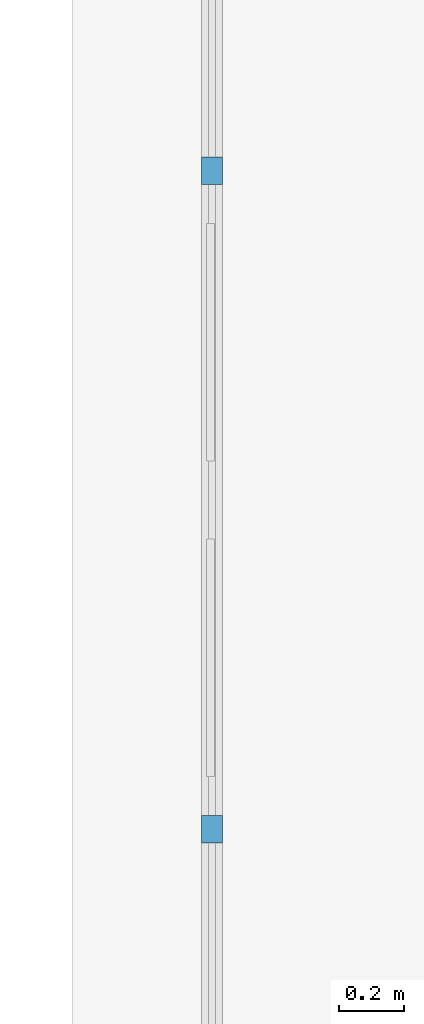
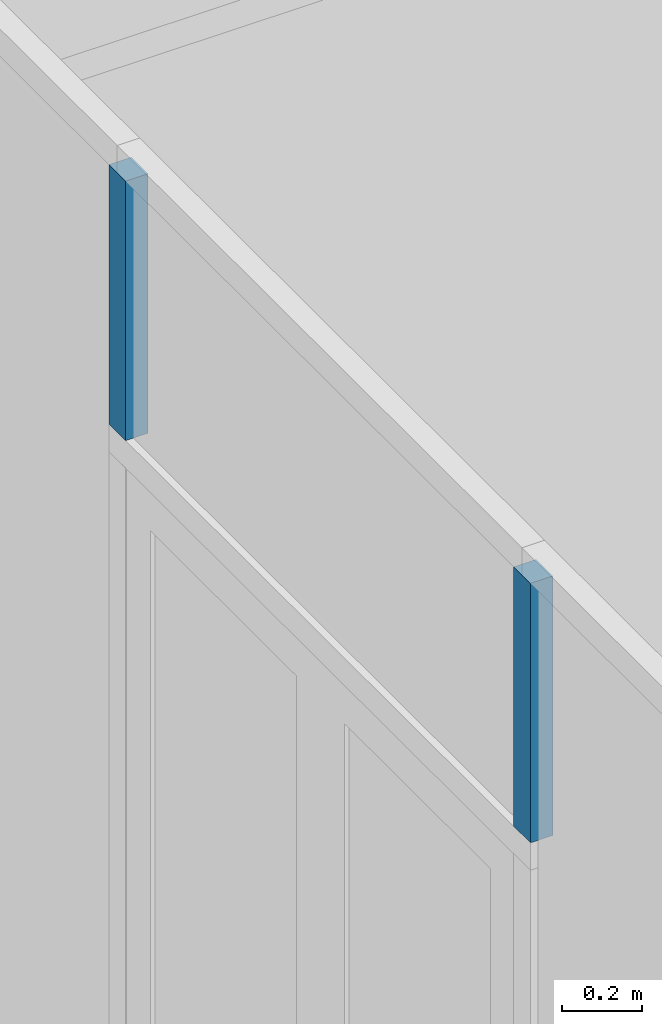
# One storey, part 6 of 99: 2 members, 1 element without a shape of its own.
"""IFC2X3 building model written with IfcOpenShell, lengths in millimetres."""

from ifc_helpers import new_model, entity, si_unit, converted_unit, derived_unit, money_unit, direction, frame, origin_with_axes, place, context, subcontext, project, spatial, faceted_brep, source, transform, mapped, material, type_object, type_shapes, element, aggregate, save


model = new_model("IFC2X3")

# Units and contexts
model_context = context("Model", 3, precision=0.01, world=origin_with_axes(), true_north=direction((0.0, 1.0)))
body_context = subcontext(model_context, "Body", "Model", "MODEL_VIEW")
ifc_project = project(units=[si_unit("LENGTHUNIT", "METRE", prefix="MILLI"), si_unit("AREAUNIT", "SQUARE_METRE"), si_unit("VOLUMEUNIT", "CUBIC_METRE"), converted_unit("PLANEANGLEUNIT", "DEGREE", entity("IfcPlaneAngleMeasure", 0.0174532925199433), si_unit("PLANEANGLEUNIT", "RADIAN"), dimensions=[0, 0, 0, 0, 0, 0, 0]), money_unit("EUR"), converted_unit("TIMEUNIT", "Year", entity("IfcTimeMeasure", 31557600.0), si_unit("TIMEUNIT", "SECOND"), dimensions=[0, 0, 1, 0, 0, 0, 0]), si_unit("MASSUNIT", "GRAM", prefix="KILO"), si_unit("THERMODYNAMICTEMPERATUREUNIT", "DEGREE_CELSIUS"), si_unit("LUMINOUSINTENSITYUNIT", "LUMEN"), si_unit("ENERGYUNIT", "JOULE", prefix="MEGA"), derived_unit("THERMALCONDUCTANCEUNIT", [(si_unit("POWERUNIT", "WATT"), 1), (si_unit("LENGTHUNIT", "METRE"), -1), (si_unit("THERMODYNAMICTEMPERATUREUNIT", "KELVIN"), -1)]), derived_unit("SPECIFICHEATCAPACITYUNIT", [(si_unit("ENERGYUNIT", "JOULE"), 1), (si_unit("MASSUNIT", "GRAM", prefix="KILO"), -1), (si_unit("THERMODYNAMICTEMPERATUREUNIT", "KELVIN"), -1)]), derived_unit("MASSDENSITYUNIT", [(si_unit("MASSUNIT", "GRAM", prefix="KILO"), 1), (si_unit("VOLUMEUNIT", "CUBIC_METRE"), -1)])], contexts=[model_context])

# Site, building, storey
site_placement = place(None, origin_with_axes())
site = spatial("IfcSite", under=ifc_project, at=site_placement, Name="Site", CompositionType="ELEMENT")
building_placement = place(site_placement, origin_with_axes())
building = spatial("IfcBuilding", under=site, at=building_placement, Name="Naam gebouw", CompositionType="ELEMENT")
storey_placement = place(building_placement, frame((0.0, 0.0, 7650.0), z_axis=(0.0, 0.0, 1.0), x_axis=(1.0, 0.0, 0.0)))
storey = spatial("IfcBuildingStorey", under=building, at=storey_placement, Name="2e verdieping N", CompositionType="ELEMENT", Elevation=7650.0)

# Curtain wall, members
curtain_wall_type = type_object("IfcCurtainWallType", Name="Curtain Wall:21_CW_alu kozijn 084x065", PredefinedType="NOTDEFINED")
curtain_wall_placement = place(storey_placement, frame((0.0, 0.0, -7650.0), z_axis=(0.0, 0.0, 1.0), x_axis=(1.0, 0.0, 0.0)))
curtain_wall = element("IfcCurtainWall", 1, at=curtain_wall_placement, inside=storey, type_object=curtain_wall_type, Name="Curtain Wall:21_CW_alu kozijn 084x065", ObjectType="Curtain Wall:21_CW_alu kozijn 084x065")
ifc_material = material(Name="RAL 7024 - Grafietgrijs")
member_type = type_object("IfcMemberType", Name="Rectangular Mullion:31_alu_084x065 RAL 7024", PredefinedType="MULLION")
shared_shape = source(origin_with_axes(), body_context, "Body", "Brep", [
    faceted_brep([(42.00000000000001, -32.5, 794.0), (-41.99999999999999, -32.50000000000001, 794.0), (-41.99999999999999, -32.50000000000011, 0.0), (42.00000000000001, -32.5000000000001, 0.0), (41.99999999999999, 32.5, 794.0), (-42.00000000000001, 32.49999999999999, 794.0), (-42.00000000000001, 32.49999999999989, 0.0), (41.99999999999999, 32.4999999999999, 0.0)], [[[0, 1, 2, 3]], [[0, 4, 5, 1]], [[1, 5, 6, 2]], [[3, 2, 6, 7]], [[4, 0, 3, 7]], [[5, 4, 7, 6]]]),
])
type_shapes(member_type, [shared_shape])
member_1_placement = place(curtain_wall_placement, frame((14474.50000000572, 31635.91242628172, 7511.999999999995), z_axis=(0.0, 0.0, 1.0), x_axis=(0.0, 1.0, 0.0)))
member_1 = element("IfcMember", 2, at=member_1_placement, type_object=member_type, material=ifc_material, Name="Rectangular Mullion:31_alu_084x065 RAL 7024", ObjectType="MULLION", context=body_context, shape_type="MappedRepresentation", body=[
    mapped(shared_shape, transform((0.0, 0.0, 0.0))),
])
member_2_placement = place(curtain_wall_placement, frame((14474.50000003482, 29605.91242631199, 7511.999999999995), z_axis=(0.0, 0.0, 1.0), x_axis=(0.0, 1.0, 0.0)))
member_2 = element("IfcMember", 3, at=member_2_placement, type_object=member_type, material=ifc_material, Name="Rectangular Mullion:31_alu_084x065 RAL 7024", ObjectType="MULLION", context=body_context, shape_type="MappedRepresentation", body=[
    mapped(shared_shape, transform((0.0, 0.0, 0.0))),
])
aggregate(curtain_wall, [member_1, member_2])

save(model, "model.ifc")
